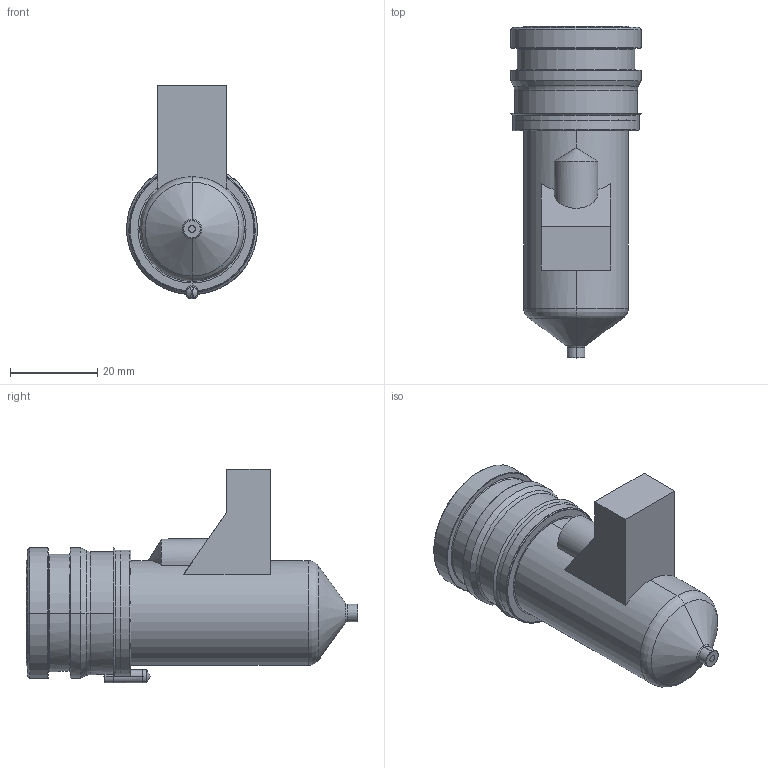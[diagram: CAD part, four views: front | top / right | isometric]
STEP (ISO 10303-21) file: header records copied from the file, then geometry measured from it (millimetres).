
FILE_DESCRIPTION((''),'2;1');
FILE_NAME('MPN-10-29-VP4-056-M','2026-02-05T12:58:15',('UPTIO'),('Thermoplay S.p.A.'),'CREO PARAMETRIC BY PTC INC, 2023494','CREO PARAMETRIC BY PTC INC, 2023494','');
FILE_SCHEMA(('CONFIG_CONTROL_DESIGN','SHAPE_APPEARANCE_LAYERS_GROUPS'));
Length unit declared in the file: millimetre
Products named in the file (1): MPN-10-29-VP4-056-M
Bounding box: 30 x 76.1 x 49 mm (x, y, z)
Volume: 25140.2 mm3; surface area: 25972.2 mm2
Topology: 3 solids, 5 shells, 574 faces, 1481 edges, 912 vertices
Faces by surface type: cylinder 177, plane 160, bspline 92, torus 69, cone 66, sphere 6, extrusion 4
Entity records: 30865 total; most frequent: CARTESIAN_POINT 14443, ORIENTED_EDGE 2948, DIRECTION 2629, EDGE_CURVE 1474, AXIS2_PLACEMENT_3D 1040, VERTEX_POINT 912, EDGE_LOOP 602, FACE_OUTER_BOUND 574
